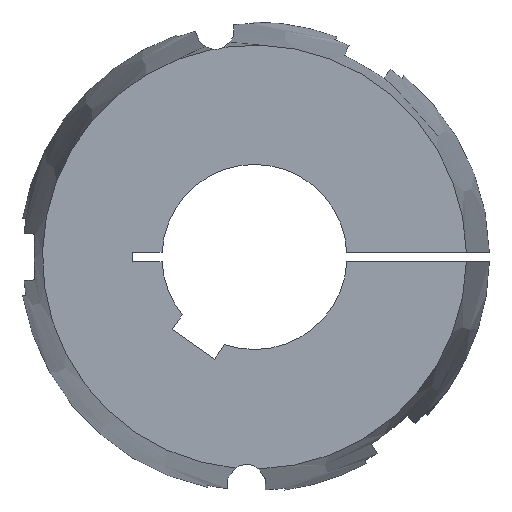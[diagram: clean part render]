
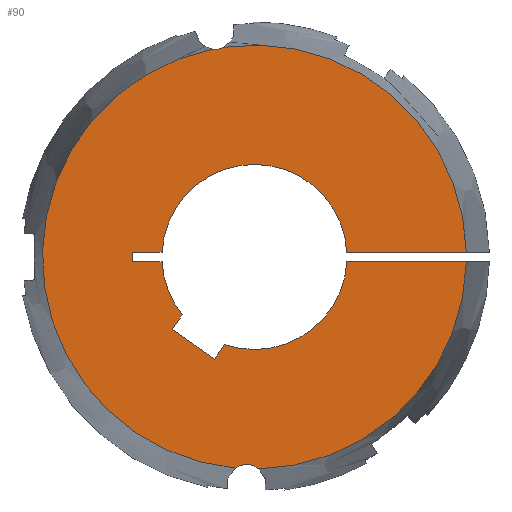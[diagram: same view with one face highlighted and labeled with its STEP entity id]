
A CAD part, left-side view. The second image highlights one B-rep face of the part: STEP entity #90.
In plain terms, the highlighted planar face has unit normal (-1, 0, 0).
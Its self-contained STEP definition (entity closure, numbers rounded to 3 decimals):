
#90 = ADVANCED_FACE( '', ( #140 ), #141, .F. );
#140 = FACE_OUTER_BOUND( '', #208, .T. );
#141 = PLANE( '', #209 );
#208 = EDGE_LOOP( '', ( #369, #370, #371, #372, #373, #374, #375, #376, #377, #378, #379, #380, #381, #382, #383, #384 ) );
#209 = AXIS2_PLACEMENT_3D( '', #385, #386, #387 );
#369 = ORIENTED_EDGE( '', *, *, #548, .F. );
#370 = ORIENTED_EDGE( '', *, *, #601, .F. );
#371 = ORIENTED_EDGE( '', *, *, #570, .T. );
#372 = ORIENTED_EDGE( '', *, *, #583, .T. );
#373 = ORIENTED_EDGE( '', *, *, #581, .T. );
#374 = ORIENTED_EDGE( '', *, *, #578, .T. );
#375 = ORIENTED_EDGE( '', *, *, #587, .T. );
#376 = ORIENTED_EDGE( '', *, *, #602, .T. );
#377 = ORIENTED_EDGE( '', *, *, #603, .T. );
#378 = ORIENTED_EDGE( '', *, *, #604, .T. );
#379 = ORIENTED_EDGE( '', *, *, #605, .T. );
#380 = ORIENTED_EDGE( '', *, *, #606, .T. );
#381 = ORIENTED_EDGE( '', *, *, #572, .T. );
#382 = ORIENTED_EDGE( '', *, *, #607, .F. );
#383 = ORIENTED_EDGE( '', *, *, #551, .F. );
#384 = ORIENTED_EDGE( '', *, *, #608, .F. );
#385 = CARTESIAN_POINT( '', ( -89., 0., 0. ) );
#386 = DIRECTION( '', ( 1., 0., 0. ) );
#387 = DIRECTION( '', ( 0., 1., 0. ) );
#548 = EDGE_CURVE( '', #649, #651, #652, .F. );
#551 = EDGE_CURVE( '', #655, #657, #658, .F. );
#570 = EDGE_CURVE( '', #693, #691, #694, .T. );
#572 = EDGE_CURVE( '', #696, #697, #698, .T. );
#578 = EDGE_CURVE( '', #709, #707, #710, .T. );
#581 = EDGE_CURVE( '', #714, #709, #715, .T. );
#583 = EDGE_CURVE( '', #691, #714, #717, .T. );
#587 = EDGE_CURVE( '', #707, #721, #723, .T. );
#601 = EDGE_CURVE( '', #693, #649, #745, .T. );
#602 = EDGE_CURVE( '', #721, #746, #747, .T. );
#603 = EDGE_CURVE( '', #746, #748, #749, .T. );
#604 = EDGE_CURVE( '', #748, #750, #751, .T. );
#605 = EDGE_CURVE( '', #750, #752, #753, .T. );
#606 = EDGE_CURVE( '', #752, #696, #754, .T. );
#607 = EDGE_CURVE( '', #657, #697, #755, .T. );
#608 = EDGE_CURVE( '', #651, #655, #756, .T. );
#649 = VERTEX_POINT( '', #815 );
#651 = VERTEX_POINT( '', #828 );
#652 = CIRCLE( '', #829, 5.25 );
#655 = VERTEX_POINT( '', #843 );
#657 = VERTEX_POINT( '', #861 );
#658 = CIRCLE( '', #862, 5.25 );
#691 = VERTEX_POINT( '', #935 );
#693 = VERTEX_POINT( '', #938 );
#694 = LINE( '', #939, #940 );
#696 = VERTEX_POINT( '', #948 );
#697 = VERTEX_POINT( '', #949 );
#698 = LINE( '', #950, #951 );
#707 = VERTEX_POINT( '', #969 );
#709 = VERTEX_POINT( '', #972 );
#710 = LINE( '', #973, #974 );
#714 = VERTEX_POINT( '', #980 );
#715 = LINE( '', #981, #982 );
#717 = CIRCLE( '', #985, 25. );
#721 = VERTEX_POINT( '', #990 );
#723 = LINE( '', #993, #994 );
#745 = CIRCLE( '', #1019, 57.277 );
#746 = VERTEX_POINT( '', #1020 );
#747 = CIRCLE( '', #1021, 25. );
#748 = VERTEX_POINT( '', #1022 );
#749 = LINE( '', #1023, #1024 );
#750 = VERTEX_POINT( '', #1025 );
#751 = LINE( '', #1026, #1027 );
#752 = VERTEX_POINT( '', #1028 );
#753 = LINE( '', #1029, #1030 );
#754 = CIRCLE( '', #1031, 25. );
#755 = CIRCLE( '', #1032, 57.277 );
#756 = CIRCLE( '', #1033, 57.277 );
#815 = CARTESIAN_POINT( '', ( -89., -1.169, -57.265 ) );
#828 = CARTESIAN_POINT( '', ( -89., 5.158, -57.044 ) );
#829 = AXIS2_PLACEMENT_3D( '', #1193, #1194, #1195 );
#843 = CARTESIAN_POINT( '', ( -89., 11.362, 56.138 ) );
#861 = CARTESIAN_POINT( '', ( -89., 8.229, 56.682 ) );
#862 = AXIS2_PLACEMENT_3D( '', #1196, #1197, #1198 );
#935 = CARTESIAN_POINT( '', ( -89., -24.969, -1.25 ) );
#938 = CARTESIAN_POINT( '', ( -89., -57.263, -1.25 ) );
#939 = CARTESIAN_POINT( '', ( -89., -63.5, -1.25 ) );
#940 = VECTOR( '', #1228, 1000. );
#948 = CARTESIAN_POINT( '', ( -89., -24.969, 1.25 ) );
#949 = CARTESIAN_POINT( '', ( -89., -57.263, 1.25 ) );
#950 = CARTESIAN_POINT( '', ( -89., 0., 1.25 ) );
#951 = VECTOR( '', #1229, 1000. );
#969 = CARTESIAN_POINT( '', ( -89., 22.253, -19.577 ) );
#972 = CARTESIAN_POINT( '', ( -89., 10.785, -27.607 ) );
#973 = CARTESIAN_POINT( '', ( -89., 10.785, -27.607 ) );
#974 = VECTOR( '', #1234, 1000. );
#980 = CARTESIAN_POINT( '', ( -89., 8.032, -23.675 ) );
#981 = CARTESIAN_POINT( '', ( -89., 8.032, -23.675 ) );
#982 = VECTOR( '', #1237, 1000. );
#985 = AXIS2_PLACEMENT_3D( '', #1239, #1240, #1241 );
#990 = CARTESIAN_POINT( '', ( -89., 19.5, -15.645 ) );
#993 = CARTESIAN_POINT( '', ( -89., 22.253, -19.577 ) );
#994 = VECTOR( '', #1247, 1000. );
#1019 = AXIS2_PLACEMENT_3D( '', #1281, #1282, #1283 );
#1020 = CARTESIAN_POINT( '', ( -89., 24.969, -1.25 ) );
#1021 = AXIS2_PLACEMENT_3D( '', #1284, #1285, #1286 );
#1022 = CARTESIAN_POINT( '', ( -89., 33., -1.25 ) );
#1023 = CARTESIAN_POINT( '', ( -89., 0., -1.25 ) );
#1024 = VECTOR( '', #1287, 1000. );
#1025 = CARTESIAN_POINT( '', ( -89., 33., 1.25 ) );
#1026 = CARTESIAN_POINT( '', ( -89., 33., -1.25 ) );
#1027 = VECTOR( '', #1288, 1000. );
#1028 = CARTESIAN_POINT( '', ( -89., 24.969, 1.25 ) );
#1029 = CARTESIAN_POINT( '', ( -89., 33., 1.25 ) );
#1030 = VECTOR( '', #1289, 1000. );
#1031 = AXIS2_PLACEMENT_3D( '', #1290, #1291, #1292 );
#1032 = AXIS2_PLACEMENT_3D( '', #1293, #1294, #1295 );
#1033 = AXIS2_PLACEMENT_3D( '', #1296, #1297, #1298 );
#1193 = CARTESIAN_POINT( '', ( -89., 2.141, -61.34 ) );
#1194 = DIRECTION( '', ( 1., 0., 0. ) );
#1195 = DIRECTION( '', ( 0., 1., 0. ) );
#1196 = CARTESIAN_POINT( '', ( -89., 10.652, 61.34 ) );
#1197 = DIRECTION( '', ( 1., 0., 0. ) );
#1198 = DIRECTION( '', ( 0., 1., 0. ) );
#1228 = DIRECTION( '', ( 0., 1., 0. ) );
#1229 = DIRECTION( '', ( 0., -1., 0. ) );
#1234 = DIRECTION( '', ( 0., 0.819, 0.574 ) );
#1237 = DIRECTION( '', ( 0., 0.574, -0.819 ) );
#1239 = CARTESIAN_POINT( '', ( -89., 0., 0. ) );
#1240 = DIRECTION( '', ( 1., 0., 0. ) );
#1241 = DIRECTION( '', ( 0., 0., -1. ) );
#1247 = DIRECTION( '', ( 0., -0.574, 0.819 ) );
#1281 = CARTESIAN_POINT( '', ( -89., 0., 0. ) );
#1282 = DIRECTION( '', ( 1., 0., 0. ) );
#1283 = DIRECTION( '', ( 0., 1., 0. ) );
#1284 = CARTESIAN_POINT( '', ( -89., 0., 0. ) );
#1285 = DIRECTION( '', ( 1., 0., 0. ) );
#1286 = DIRECTION( '', ( 0., 0., -1. ) );
#1287 = DIRECTION( '', ( 0., 1., 0. ) );
#1288 = DIRECTION( '', ( 0., 0., 1. ) );
#1289 = DIRECTION( '', ( 0., -1., 0. ) );
#1290 = CARTESIAN_POINT( '', ( -89., 0., 0. ) );
#1291 = DIRECTION( '', ( 1., 0., 0. ) );
#1292 = DIRECTION( '', ( 0., 0., -1. ) );
#1293 = CARTESIAN_POINT( '', ( -89., 0., 0. ) );
#1294 = DIRECTION( '', ( 1., 0., 0. ) );
#1295 = DIRECTION( '', ( 0., 1., 0. ) );
#1296 = CARTESIAN_POINT( '', ( -89., 0., 0. ) );
#1297 = DIRECTION( '', ( 1., 0., 0. ) );
#1298 = DIRECTION( '', ( 0., 1., 0. ) );
